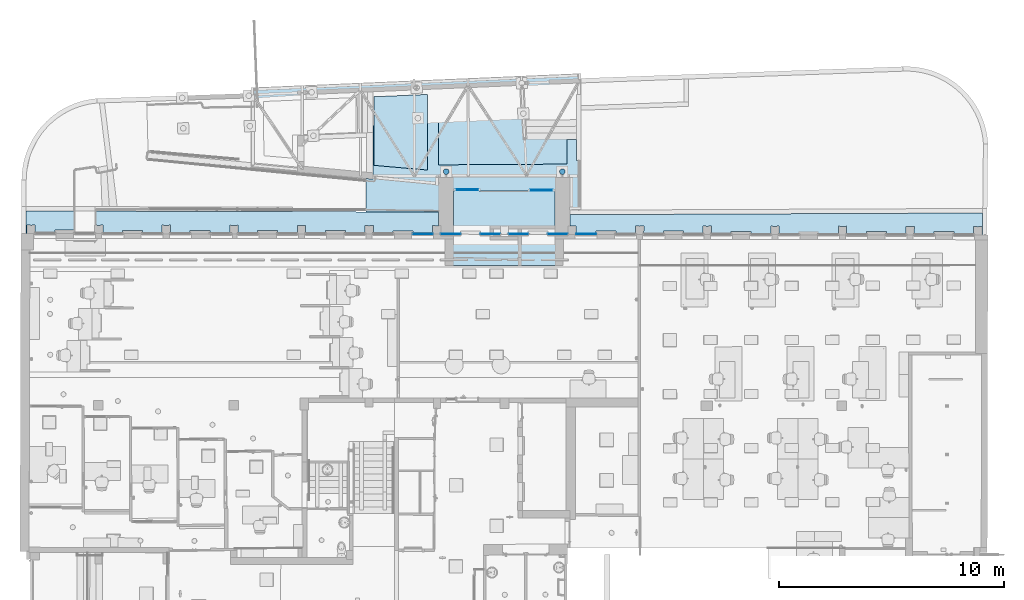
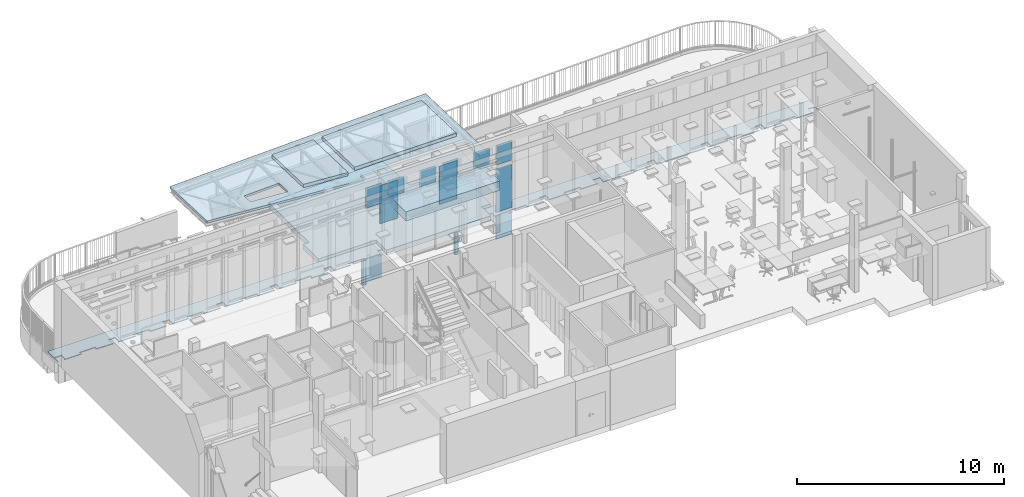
# One storey, part 23 of 128: 13 plates, 8 slabs, 1 opening, 13 elements without a shape of their own.
"""IFC2X3 building model written with IfcOpenShell, lengths in metres."""

from ifc_helpers import new_model, entity, si_unit, converted_unit, derived_unit, direction, frame, frame_2d, origin, origin_2d_with_axis, place, context, subcontext, project, spatial, polyline, rectangle, circle, outline, extrude, clip, halfspace, source, transform, mapped, material, layer, layer_set, layer_usage, type_object, type_shapes, element, aggregate, save


model = new_model("IFC2X3")

# Units and contexts
model_context = context("Model", 3, precision=1e-05, world=origin(), true_north=direction((6.123031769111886e-17, 1.0)))
body_context = subcontext(model_context, "Body", "Model", "MODEL_VIEW")
ifc_project = project(units=[si_unit("LENGTHUNIT", "METRE"), si_unit("AREAUNIT", "SQUARE_METRE"), converted_unit("PLANEANGLEUNIT", "DEGREE", entity("IfcPlaneAngleMeasure", 0.017453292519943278), si_unit("PLANEANGLEUNIT", "RADIAN"), dimensions=[0, 0, 0, 0, 0, 0, 0]), derived_unit("THERMALTRANSMITTANCEUNIT", [(si_unit("MASSUNIT", "GRAM", prefix="KILO"), 1), (si_unit("THERMODYNAMICTEMPERATUREUNIT", "KELVIN"), -1), (si_unit("TIMEUNIT", "SECOND"), -3)])], contexts=[model_context])

# Site, building, storey
site_placement = place(None, origin())
site = spatial("IfcSite", under=ifc_project, at=site_placement, Name="Default", CompositionType="ELEMENT")
building_placement = place(site_placement, origin())
building = spatial("IfcBuilding", under=site, at=building_placement, CompositionType="ELEMENT")
storey_placement = place(building_placement, origin())
storey = spatial("IfcBuildingStorey", under=building, at=storey_placement, Name="00_RDC CAF", CompositionType="ELEMENT", Elevation=2.4982504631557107e-13)

# Curtain wall, plate
curtain_wall_type_1 = type_object("IfcCurtainWallType", Name="Mur-rideau:FRi.Ext.30mm RDC", PredefinedType="NOTDEFINED")
curtain_wall_1_placement = place(storey_placement, origin())
curtain_wall_1 = element("IfcCurtainWall", 1, at=curtain_wall_1_placement, inside=storey, type_object=curtain_wall_type_1, Name="Mur-rideau:FRi.Ext.30mm RDC", ObjectType="Mur-rideau:FRi.Ext.30mm RDC")
ifc_material_1 = material(Name="ARC - M.Ex - Verre")
plate_type_1 = type_object("IfcPlateType", Name="Panneau système:F.Ri.P_Ext_Vitre_30mm", PredefinedType="CURTAIN_PANEL", material=ifc_material_1)
shared_shape_1 = source(origin(), body_context, "Body", "SweptSolid", [
    extrude(rectangle(XDim=0.03, YDim=0.879999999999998, at=frame_2d((0.0, 1.942890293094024e-16), x_axis=(1.0, 0.0))), frame((0.0, 0.0, 0.0), z_axis=(0.0, 0.0, 1.0), x_axis=(0.0, 1.0, 0.0)), (0.0, 0.0, 1.0), 2.578999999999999),
])
type_shapes(plate_type_1, [shared_shape_1])
plate_1_placement = place(curtain_wall_1_placement, frame((31.375993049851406, 144.14482896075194, 0.08999999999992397)))
plate_1 = element("IfcPlate", 2, at=plate_1_placement, type_object=plate_type_1, material=ifc_material_1, Name="Panneau système:F.Ri.P_Ext_Vitre_30mm", ObjectType="Panneau système:F.Ri.P_Ext_Vitre_30mm", context=body_context, shape_type="MappedRepresentation", body=[
    mapped(shared_shape_1, transform((0.0, 0.0, 0.0), scale=1.0)),
])

curtain_wall_2_placement = place(storey_placement, origin())
curtain_wall_2 = element("IfcCurtainWall", 3, at=curtain_wall_2_placement, inside=storey, type_object=curtain_wall_type_1, Name="Mur-rideau:FRi.Ext.30mm RDC", ObjectType="Mur-rideau:FRi.Ext.30mm RDC")
plate_type_2 = type_object("IfcPlateType", Name="Panneau système:F.Ri.P_Ext_Vitre_30mm", PredefinedType="CURTAIN_PANEL", material=ifc_material_1)
shared_shape_2 = source(origin(), body_context, "Body", "SweptSolid", [
    extrude(rectangle(XDim=0.03, YDim=0.879999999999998, at=frame_2d((0.0, 1.942890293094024e-16), x_axis=(1.0, 0.0))), frame((0.0, 0.0, 0.0), z_axis=(0.0, 0.0, 1.0), x_axis=(0.0, 1.0, 0.0)), (0.0, 0.0, 1.0), 1.1689999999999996),
])
type_shapes(plate_type_2, [shared_shape_2])
plate_2_placement = place(curtain_wall_2_placement, frame((24.12238492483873, 144.15623667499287, 2.8689999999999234)))
plate_2 = element("IfcPlate", 4, at=plate_2_placement, type_object=plate_type_2, material=ifc_material_1, Name="Panneau système:F.Ri.P_Ext_Vitre_30mm", ObjectType="Panneau système:F.Ri.P_Ext_Vitre_30mm", context=body_context, shape_type="MappedRepresentation", body=[
    mapped(shared_shape_2, transform((0.0, 0.0, 0.0), scale=1.0)),
])
aggregate(curtain_wall_2, [plate_2])

# Plate
plate_3_placement = place(curtain_wall_1_placement, frame((31.375993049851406, 144.14482896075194, 2.8689999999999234)))
plate_3 = element("IfcPlate", 5, at=plate_3_placement, type_object=plate_type_2, material=ifc_material_1, Name="Panneau système:F.Ri.P_Ext_Vitre_30mm", ObjectType="Panneau système:F.Ri.P_Ext_Vitre_30mm", context=body_context, shape_type="MappedRepresentation", body=[
    mapped(shared_shape_2, transform((0.0, 0.0, 0.0), scale=1.0)),
])

aggregate(curtain_wall_1, [plate_1, plate_3])

# Curtain wall, plate
curtain_wall_type_2 = type_object("IfcCurtainWallType", PredefinedType="NOTDEFINED")
curtain_wall_3_placement = place(storey_placement, origin())
curtain_wall_3 = element("IfcCurtainWall", 6, at=curtain_wall_3_placement, inside=storey, type_object=curtain_wall_type_2)
plate_type_3 = type_object("IfcPlateType", Name="Panneau système:F.Ri.P_Ext_Vitre_40mm", PredefinedType="CURTAIN_PANEL", material=ifc_material_1)
shared_shape_3 = source(origin(), body_context, "Body", "SweptSolid", [
    extrude(rectangle(XDim=0.04, YDim=0.9947786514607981, at=origin_2d_with_axis()), frame((0.0, 0.0, 0.0), z_axis=(0.0, 0.0, 1.0), x_axis=(0.0, 1.0, 0.0)), (0.0, 0.0, 1.0), 2.25),
])
type_shapes(plate_type_3, [shared_shape_3])
plate_4_placement = place(curtain_wall_3_placement, frame((29.393335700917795, 146.08765821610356, 0.09999999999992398)))
plate_4 = element("IfcPlate", 7, at=plate_4_placement, type_object=plate_type_3, material=ifc_material_1, Name="Panneau système:F.Ri.P_Ext_Vitre_40mm", ObjectType="Panneau système:F.Ri.P_Ext_Vitre_40mm", context=body_context, shape_type="MappedRepresentation", body=[
    mapped(shared_shape_3, transform((0.0, 0.0, 0.0), scale=1.0)),
])
aggregate(curtain_wall_3, [plate_4])

curtain_wall_4_placement = place(storey_placement, origin())
curtain_wall_4 = element("IfcCurtainWall", 8, at=curtain_wall_4_placement, inside=storey, type_object=curtain_wall_type_2)
plate_5_placement = place(curtain_wall_4_placement, frame((29.393335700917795, 146.08765821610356, 0.09999999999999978)))
plate_5 = element("IfcPlate", 9, at=plate_5_placement, type_object=plate_type_3, material=ifc_material_1, Name="Panneau système:F.Ri.P_Ext_Vitre_40mm", ObjectType="Panneau système:F.Ri.P_Ext_Vitre_40mm", context=body_context, shape_type="MappedRepresentation", body=[
    mapped(shared_shape_3, transform((0.0, 0.0, 0.0), scale=1.0)),
])
aggregate(curtain_wall_4, [plate_5])

# Roof, slab
ifc_material_2 = material(Name="STR - Beton Mur")
ifc_layer_1 = layer(ifc_material_2, 0.55)
ifc_layer_set_1 = layer_set([ifc_layer_1], Name="Toit de base:Co_Plafond_Entrée_550mm")
roof_placement = place(storey_placement, frame((25.11871096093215, 142.74142831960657, 2.4499999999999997)))
roof = element("IfcRoof", 10, at=roof_placement, inside=storey, material=ifc_layer_set_1, Name="Toit de base:Co_Plafond_Entrée_550mm", ObjectType="Toit de base:Co_Plafond_Entrée_550mm", ShapeType="NOTDEFINED")
type_product = type_object("IfcTypeProduct", Name="Toit de base:Co_Plafond_Entrée_550mm")
slab_1_placement = place(roof_placement, origin())
slab_1 = element("IfcSlab", 11, at=slab_1_placement, type_object=type_product, material=ifc_layer_set_1, Name="Toit de base:Co_Plafond_Entrée_550mm", ObjectType="Toit de base:Co_Plafond_Entrée_550mm", PredefinedType="ROOF", context=body_context, shape_type="SweptSolid", body=[
    extrude(outline(polyline([(-2.245793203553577, 1.6572705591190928), (-2.2486984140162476, 0.12817494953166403), (-2.249435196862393, -0.25961499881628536), (-2.619768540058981, -0.2590325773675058), (-2.6200988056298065, -0.46903231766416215), (-2.6219545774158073, -1.6490269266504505), (-2.251955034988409, -1.649608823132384), (2.2497689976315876, -1.6566886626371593), (2.619768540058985, -1.6572705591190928), (2.6216243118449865, -0.4772759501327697), (2.6219545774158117, -0.26727620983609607), (2.2500594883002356, -0.2666913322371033), (2.2500594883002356, 0.1281749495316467), (2.2500594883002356, 1.6572705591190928), (-2.245793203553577, 1.6572705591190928)])), frame((2.6219545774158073, 1.6572705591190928, 0.0)), (0.0, 0.0, 1.0), 0.55),
])
aggregate(roof, [slab_1])

# Curtain wall, plate
curtain_wall_5_placement = place(storey_placement, origin())
curtain_wall_5 = element("IfcCurtainWall", 12, at=curtain_wall_5_placement, inside=storey, type_object=curtain_wall_type_2)
plate_type_4 = type_object("IfcPlateType", Name="Panneau système:F.Ri.P_Ext_Vitre_40mm", PredefinedType="CURTAIN_PANEL", material=ifc_material_1)
shared_shape_4 = source(origin(), body_context, "Body", "SweptSolid", [
    extrude(rectangle(XDim=0.04, YDim=0.9947786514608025, at=origin_2d_with_axis()), frame((0.0, 0.0, 0.0), z_axis=(0.0, 0.0, 1.0), x_axis=(0.0, 1.0, 0.0)), (0.0, 0.0, 1.0), 2.25),
])
type_shapes(plate_type_4, [shared_shape_4])
plate_6_placement = place(curtain_wall_5_placement, frame((26.098557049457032, 146.10885821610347, 0.09999999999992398), z_axis=(0.0, 0.0, 1.0), x_axis=(-1.0, 0.0, 0.0)))
plate_6 = element("IfcPlate", 13, at=plate_6_placement, type_object=plate_type_4, material=ifc_material_1, Name="Panneau système:F.Ri.P_Ext_Vitre_40mm", ObjectType="Panneau système:F.Ri.P_Ext_Vitre_40mm", context=body_context, shape_type="MappedRepresentation", body=[
    mapped(shared_shape_4, transform((0.0, 0.0, 0.0), scale=1.0)),
])
aggregate(curtain_wall_5, [plate_6])

curtain_wall_6_placement = place(storey_placement, origin())
curtain_wall_6 = element("IfcCurtainWall", 14, at=curtain_wall_6_placement, inside=storey, type_object=curtain_wall_type_2)
plate_7_placement = place(curtain_wall_6_placement, frame((26.098557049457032, 146.10885821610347, 0.09999999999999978), z_axis=(0.0, 0.0, 1.0), x_axis=(-1.0, 0.0, 0.0)))
plate_7 = element("IfcPlate", 15, at=plate_7_placement, type_object=plate_type_4, material=ifc_material_1, Name="Panneau système:F.Ri.P_Ext_Vitre_40mm", ObjectType="Panneau système:F.Ri.P_Ext_Vitre_40mm", context=body_context, shape_type="MappedRepresentation", body=[
    mapped(shared_shape_4, transform((0.0, 0.0, 0.0), scale=1.0)),
])
aggregate(curtain_wall_6, [plate_7])

curtain_wall_7_placement = place(storey_placement, origin())
curtain_wall_7 = element("IfcCurtainWall", 16, at=curtain_wall_7_placement, inside=storey, type_object=curtain_wall_type_1, Name="Mur-rideau:FRi.Ext.30mm RDC", ObjectType="Mur-rideau:FRi.Ext.30mm RDC")
plate_type_5 = type_object("IfcPlateType", Name="Panneau système:F.Ri.P_Ext_Vitre_30mm", PredefinedType="CURTAIN_PANEL", material=ifc_material_1)
shared_shape_5 = source(origin(), body_context, "Body", "SweptSolid", [
    extrude(rectangle(XDim=0.03, YDim=0.8800000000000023, at=frame_2d((0.0, 7.494005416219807e-16), x_axis=(1.0, 0.0))), frame((0.0, 0.0, 0.0), z_axis=(0.0, 0.0, 1.0), x_axis=(0.0, 1.0, 0.0)), (0.0, 0.0, 1.0), 0.9479999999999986),
])
type_shapes(plate_type_5, [shared_shape_5])
plate_8_placement = place(curtain_wall_7_placement, frame((28.375999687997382, 144.14482896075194, 3.0899999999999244)))
plate_8 = element("IfcPlate", 17, at=plate_8_placement, type_object=plate_type_5, material=ifc_material_1, Name="Panneau système:F.Ri.P_Ext_Vitre_30mm", ObjectType="Panneau système:F.Ri.P_Ext_Vitre_30mm", context=body_context, shape_type="MappedRepresentation", body=[
    mapped(shared_shape_5, transform((0.0, 0.0, 0.0), scale=1.0)),
])
aggregate(curtain_wall_7, [plate_8])

curtain_wall_8_placement = place(storey_placement, origin())
curtain_wall_8 = element("IfcCurtainWall", 18, at=curtain_wall_8_placement, inside=storey, type_object=curtain_wall_type_1, Name="Mur-rideau:FRi.Ext.30mm RDC", ObjectType="Mur-rideau:FRi.Ext.30mm RDC")
plate_9_placement = place(curtain_wall_8_placement, frame((30.122371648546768, 144.14208245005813, 3.0899999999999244)))
plate_9 = element("IfcPlate", 19, at=plate_9_placement, type_object=plate_type_5, material=ifc_material_1, Name="Panneau système:F.Ri.P_Ext_Vitre_30mm", ObjectType="Panneau système:F.Ri.P_Ext_Vitre_30mm", context=body_context, shape_type="MappedRepresentation", body=[
    mapped(shared_shape_5, transform((0.0, 0.0, 0.0), scale=1.0)),
])
aggregate(curtain_wall_8, [plate_9])

curtain_wall_9_placement = place(storey_placement, origin())
curtain_wall_9 = element("IfcCurtainWall", 20, at=curtain_wall_9_placement, inside=storey, type_object=curtain_wall_type_1, Name="Mur-rideau:FRi.Ext.30mm RDC", ObjectType="Mur-rideau:FRi.Ext.30mm RDC")
plate_10_placement = place(curtain_wall_9_placement, frame((25.376006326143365, 144.14482896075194, 3.0899999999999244)))
plate_10 = element("IfcPlate", 21, at=plate_10_placement, type_object=plate_type_5, material=ifc_material_1, Name="Panneau système:F.Ri.P_Ext_Vitre_30mm", ObjectType="Panneau système:F.Ri.P_Ext_Vitre_30mm", context=body_context, shape_type="MappedRepresentation", body=[
    mapped(shared_shape_5, transform((0.0, 0.0, 0.0), scale=1.0)),
])
aggregate(curtain_wall_9, [plate_10])

curtain_wall_10_placement = place(storey_placement, origin())
curtain_wall_10 = element("IfcCurtainWall", 22, at=curtain_wall_10_placement, inside=storey, type_object=curtain_wall_type_1, Name="Mur-rideau:FRi.Ext.30mm RDC", ObjectType="Mur-rideau:FRi.Ext.30mm RDC")
plate_11_placement = place(curtain_wall_10_placement, frame((27.12237828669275, 144.14208245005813, 3.0899999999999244)))
plate_11 = element("IfcPlate", 23, at=plate_11_placement, type_object=plate_type_5, material=ifc_material_1, Name="Panneau système:F.Ri.P_Ext_Vitre_30mm", ObjectType="Panneau système:F.Ri.P_Ext_Vitre_30mm", context=body_context, shape_type="MappedRepresentation", body=[
    mapped(shared_shape_5, transform((0.0, 0.0, 0.0), scale=1.0)),
])
aggregate(curtain_wall_10, [plate_11])

curtain_wall_type_3 = type_object("IfcCurtainWallType", Name="Mur-rideau:FRi.Ext.30mm Etages", PredefinedType="NOTDEFINED")
curtain_wall_11_placement = place(storey_placement, origin())
curtain_wall_11 = element("IfcCurtainWall", 24, at=curtain_wall_11_placement, inside=storey, type_object=curtain_wall_type_3, Name="Mur-rideau:FRi.Ext.30mm Etages", ObjectType="Mur-rideau:FRi.Ext.30mm Etages")
ifc_material_3 = material(Name="ARC - M.Ex - Bleu Foncé")
plate_type_6 = type_object("IfcPlateType", Name="Panneau système:F.Ri.P_Ext_Plein_30mm_Bleu foncé", PredefinedType="CURTAIN_PANEL", material=ifc_material_3)
shared_shape_6 = source(origin(), body_context, "Body", "SweptSolid", [
    extrude(rectangle(XDim=0.03, YDim=0.8800000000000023, at=frame_2d((0.0, 7.494005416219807e-16), x_axis=(1.0, 0.0))), frame((0.0, 0.0, 0.0), z_axis=(0.0, 0.0, 1.0), x_axis=(0.0, 1.0, 0.0)), (0.0, 0.0, 1.0), 1.3879999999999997),
])
type_shapes(plate_type_6, [shared_shape_6])
plate_12_placement = place(curtain_wall_11_placement, frame((31.37599304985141, 144.14482896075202, -1.500000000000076)))
plate_12 = element("IfcPlate", 25, at=plate_12_placement, type_object=plate_type_6, material=ifc_material_3, Name="Panneau système:F.Ri.P_Ext_Plein_30mm_Bleu foncé", ObjectType="Panneau système:F.Ri.P_Ext_Plein_30mm_Bleu foncé", context=body_context, shape_type="MappedRepresentation", body=[
    mapped(shared_shape_6, transform((0.0, 0.0, 0.0), scale=1.0)),
])
aggregate(curtain_wall_11, [plate_12])

curtain_wall_12_placement = place(storey_placement, origin())
curtain_wall_12 = element("IfcCurtainWall", 26, at=curtain_wall_12_placement, inside=storey, type_object=curtain_wall_type_3, Name="Mur-rideau:FRi.Ext.30mm Etages", ObjectType="Mur-rideau:FRi.Ext.30mm Etages")
plate_type_7 = type_object("IfcPlateType", Name="Panneau système:F.Ri.P_Ext_Plein_30mm_Bleu foncé", PredefinedType="CURTAIN_PANEL", material=ifc_material_3)
shared_shape_7 = source(origin(), body_context, "Body", "SweptSolid", [
    extrude(rectangle(XDim=0.03, YDim=0.8800000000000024, at=frame_2d((0.0, 6.661338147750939e-16), x_axis=(1.0, 0.0))), frame((0.0, 0.0, 0.0), z_axis=(0.0, 0.0, 1.0), x_axis=(0.0, 1.0, 0.0)), (0.0, 0.0, 1.0), 1.3879999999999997),
])
type_shapes(plate_type_7, [shared_shape_7])
plate_13_placement = place(curtain_wall_12_placement, frame((24.122359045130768, 144.1562367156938, -1.500000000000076), z_axis=(0.0, 0.0, 1.0), x_axis=(-1.0, 0.0, 0.0)))
plate_13 = element("IfcPlate", 27, at=plate_13_placement, type_object=plate_type_7, material=ifc_material_3, Name="Panneau système:F.Ri.P_Ext_Plein_30mm_Bleu foncé", ObjectType="Panneau système:F.Ri.P_Ext_Plein_30mm_Bleu foncé", context=body_context, shape_type="MappedRepresentation", body=[
    mapped(shared_shape_7, transform((0.0, 0.0, 0.0), scale=1.0)),
])
aggregate(curtain_wall_12, [plate_13])

# Slabs
ifc_material_4 = material(Name="STR - Caillebotis")
ifc_layer_2 = layer(ifc_material_4, 0.05)
ifc_layer_set_2 = layer_set([ifc_layer_2], Name="Sol:S_Caillebotis_50 mm")
ifc_layer_usage_1 = layer_usage(ifc_layer_set_2, "AXIS3", "POSITIVE", 0.0)
slab_type_1 = type_object("IfcSlabType", Name="Sol:S_Caillebotis_50 mm", PredefinedType="FLOOR", material=ifc_layer_set_2)
slab_2_placement = place(storey_placement, origin())
element("IfcSlab", 28, at=slab_2_placement, inside=storey, type_object=slab_type_1, material=ifc_layer_usage_1, Name="Sol:S_Caillebotis_50 mm", ObjectType="Sol:S_Caillebotis_50 mm", PredefinedType="FLOOR", context=body_context, shape_type="SweptSolid", body=[
    extrude(outline(polyline([(-9.158785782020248, -0.8032743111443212), (9.16073170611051, -0.8032743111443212), (9.162861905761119, -0.30454364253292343), (9.063790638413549, -0.29310021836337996), (8.881176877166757, -0.3120333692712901), (8.88325145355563, 0.0429605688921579), (8.929050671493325, 0.04269291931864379), (8.929225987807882, 0.07269240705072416), (7.949268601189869, 0.07841925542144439), (7.949093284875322, 0.04841976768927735), (8.010892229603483, 0.04805861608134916), (8.01019096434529, -0.07193933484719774), (7.120206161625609, -0.06673828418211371), (7.120907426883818, 0.05325966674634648), (7.18270637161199, 0.05289851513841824), (7.182881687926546, 0.08289800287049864), (6.202675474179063, 0.08862630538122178), (6.202500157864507, 0.05862681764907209), (6.2482993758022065, 0.05835916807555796), (6.24622479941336, -0.29663477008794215), (6.063844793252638, -0.27556860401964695), (5.881231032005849, -0.2945017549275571), (5.883305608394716, 0.06049218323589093), (5.929104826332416, 0.060224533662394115), (5.929280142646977, 0.0902240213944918), (4.94932275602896, 0.0959508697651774), (4.9491474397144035, 0.06595138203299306), (5.010946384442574, 0.06559023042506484), (5.010245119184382, -0.054407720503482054), (4.120260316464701, -0.0492066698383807), (4.120961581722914, 0.0707912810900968), (4.18276052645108, 0.07043012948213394), (4.182935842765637, 0.10042961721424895), (3.202729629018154, 0.10615791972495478), (3.202554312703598, 0.07615843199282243), (3.248353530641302, 0.07589078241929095), (3.2462789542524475, -0.27910315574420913), (3.063898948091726, -0.2580369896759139), (2.8812851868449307, -0.2769701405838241), (2.883359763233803, 0.07802379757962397), (2.929158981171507, 0.07775614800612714), (2.929334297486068, 0.10775563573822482), (1.9493769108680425, 0.11348248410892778), (1.9492015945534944, 0.08348299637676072), (2.011000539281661, 0.08312184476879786), (2.010299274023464, -0.036876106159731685), (1.1203144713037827, -0.03167505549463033), (1.121015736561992, 0.08832289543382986), (1.1828146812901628, 0.08796174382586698), (1.1829899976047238, 0.117961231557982), (0.2027837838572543, 0.12368953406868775), (0.2026084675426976, 0.09369004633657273), (0.24840768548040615, 0.09342239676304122), (0.2463331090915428, -0.2615715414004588), (0.06395310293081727, -0.2405053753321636), (-0.11866065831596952, -0.2594385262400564), (-0.11658608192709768, 0.09555541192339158), (-0.07078686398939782, 0.09528776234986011), (-0.07061154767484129, 0.1252872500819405), (-2.797162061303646, 0.14122114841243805), (-2.7973373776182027, 0.11122166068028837), (-2.7515381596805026, 0.11095401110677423), (-2.7536127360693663, -0.24403992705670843), (-2.9359927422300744, -0.22297376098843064), (-3.1186065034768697, -0.24190691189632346), (-3.116531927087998, 0.11308702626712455), (-3.070732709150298, 0.1128193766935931), (-3.0705573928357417, 0.1428188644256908), (-4.050514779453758, 0.14854571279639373), (-4.0506900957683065, 0.11854622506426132), (-3.9888911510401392, 0.11818507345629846), (-3.9895924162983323, -0.0018128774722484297), (-4.879577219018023, 0.003388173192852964), (-4.878875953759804, 0.12338612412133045), (-4.817077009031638, 0.1230249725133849), (-4.816901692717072, 0.1530244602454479), (-5.797107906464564, 0.1587527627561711), (-5.797283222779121, 0.12875327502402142), (-5.75148400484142, 0.1284856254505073), (-5.753558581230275, -0.2265083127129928), (-5.935938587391, -0.20544214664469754), (-6.118552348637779, -0.22437529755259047), (-6.116477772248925, 0.13061864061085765), (-6.070678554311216, 0.13035099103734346), (-6.070503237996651, 0.16035047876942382), (-7.050460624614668, 0.16607732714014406), (-7.050635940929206, 0.13607783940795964), (-6.988836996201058, 0.1357166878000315), (-6.989538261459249, 0.015718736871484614), (-7.8795230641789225, 0.02091978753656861), (-7.878821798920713, 0.1409177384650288), (-7.8170228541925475, 0.1405565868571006), (-7.816847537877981, 0.17055607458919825), (-8.797053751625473, 0.17628437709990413), (-8.79722906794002, 0.14628488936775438), (-8.75142985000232, 0.14601723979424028), (-8.753504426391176, -0.2089766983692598), (-8.935884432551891, -0.18791053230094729), (-9.118498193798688, -0.20684368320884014), (-9.116248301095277, 0.1781497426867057), (-9.154592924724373, 0.17837382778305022), (-9.158785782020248, -0.8032743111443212)])), frame((39.81480412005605, 144.24142988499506, -0.2200000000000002), z_axis=(0.0, 0.0, 1.0), x_axis=(-0.9999908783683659, -0.004271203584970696, 0.0)), (0.0, 0.0, 1.0), 0.05),
    extrude(outline(polyline([(-9.056201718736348, -0.12075808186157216), (-9.011311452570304, -0.12075808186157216), (-9.011311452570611, 0.2642419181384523), (-8.8288114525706, 0.24424191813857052), (-8.646311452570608, 0.2642419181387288), (-8.646311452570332, -0.09075808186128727), (-8.692111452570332, -0.09075808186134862), (-8.692111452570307, -0.12075808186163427), (-7.712137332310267, -0.12075808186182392), (-7.712137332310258, -0.09075808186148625), (-7.773937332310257, -0.090758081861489), (-7.773937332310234, 0.02924191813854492), (-6.883937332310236, 0.029241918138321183), (-6.88393733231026, -0.09075808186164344), (-6.945737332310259, -0.0907580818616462), (-6.9457373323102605, -0.12075808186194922), (-5.965514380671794, -0.12075808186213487), (-5.965514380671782, -0.09075808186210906), (-6.0113143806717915, -0.09075808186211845), (-6.011314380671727, 0.2642419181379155), (-5.828814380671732, 0.24424191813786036), (-5.646314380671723, 0.26424191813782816), (-5.646314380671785, -0.09075808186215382), (-5.692114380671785, -0.09075808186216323), (-5.6921143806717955, -0.1207580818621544), (-4.712180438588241, -0.12075808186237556), (-4.7121804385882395, -0.09075808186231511), (-4.773980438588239, -0.09075808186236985), (-4.773980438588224, 0.029241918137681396), (-3.8839804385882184, 0.029241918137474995), (-3.8839804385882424, -0.09075808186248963), (-3.945780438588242, -0.09075808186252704), (-3.9457804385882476, -0.12075808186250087), (-2.9655173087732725, -0.12075808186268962), (-2.9655173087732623, -0.09075808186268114), (-3.011317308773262, -0.09075808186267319), (-3.011317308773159, 0.2642419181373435), (-2.8288173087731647, 0.24424191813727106), (-2.646317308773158, 0.2642419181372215), (-2.6463173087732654, -0.0907580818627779), (-2.692117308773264, -0.09075808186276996), (-2.6921173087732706, -0.12075808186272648), (-1.7121431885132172, -0.12075808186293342), (-1.7121431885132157, -0.09075808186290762), (-1.7739431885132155, -0.0907580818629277), (-1.7739431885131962, 0.02924191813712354), (-0.8839431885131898, 0.029241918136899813), (-0.8839431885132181, -0.09075808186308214), (-0.9457431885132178, -0.09075808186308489), (-0.9457431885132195, -0.1207580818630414), (0.034479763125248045, -0.12075808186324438), (0.0344797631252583, -0.09075808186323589), (-0.011320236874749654, -0.09075808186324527), (-0.011320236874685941, 0.26424191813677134), (0.17117976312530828, 0.24424191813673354), (0.3536797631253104, 0.2642419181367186), (0.35367976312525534, -0.09075808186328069), (0.307879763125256, -0.09075808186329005), (0.3078797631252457, -0.12075808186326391), (1.2878538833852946, -0.12075808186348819), (1.2878538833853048, -0.09075808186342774), (1.2260538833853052, -0.09075808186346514), (1.22605388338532, 0.029241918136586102), (2.1160538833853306, 0.029241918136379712), (2.1160538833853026, -0.09075808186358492), (2.054253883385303, -0.09075808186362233), (2.0542538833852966, -0.12075808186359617), (3.034476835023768, -0.12075808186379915), (3.03447683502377, -0.090758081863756), (2.9886768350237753, -0.09075808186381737), (2.988676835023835, 0.2642419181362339), (3.1711768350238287, 0.24424191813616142), (3.3536768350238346, 0.26424191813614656), (3.3536768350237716, -0.0907580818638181), (3.3078768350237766, -0.09075808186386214), (3.3078768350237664, -0.12075808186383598), (4.28785095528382, -0.12075808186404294), (4.287850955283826, -0.0907580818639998), (4.22605095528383, -0.09075808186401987), (4.226050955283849, 0.029241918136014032), (5.116050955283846, 0.029241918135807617), (5.116050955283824, -0.09075808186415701), (5.054250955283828, -0.09075808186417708), (5.054250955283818, -0.12075808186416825), (6.0344739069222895, -0.1207580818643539), (6.034473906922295, -0.09075808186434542), (5.988673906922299, -0.09075808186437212), (5.988673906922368, 0.26424191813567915), (6.171173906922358, 0.24424191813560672), (6.3536739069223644, 0.2642419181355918), (6.3536739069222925, -0.09075808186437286), (6.307873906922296, -0.09075808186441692), (6.307873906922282, -0.12075808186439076), (7.287848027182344, -0.12075808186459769), (7.287848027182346, -0.09075808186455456), (7.226048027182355, -0.09075808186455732), (7.22604802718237, 0.029241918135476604), (8.116048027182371, 0.02924191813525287), (8.116048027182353, -0.09075808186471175), (8.054248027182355, -0.09075808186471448), (8.054248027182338, -0.12075808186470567), (9.034470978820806, -0.12075808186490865), (9.034470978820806, -0.0907580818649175), (8.988670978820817, -0.09075808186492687), (8.98867097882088, 0.26424191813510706), (9.171170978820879, 0.24424191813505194), (9.256171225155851, 0.25355701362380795), (9.255206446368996, 0.867012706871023), (-9.057775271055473, 0.8797869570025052), (-9.056201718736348, -0.12075808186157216)])), frame((15.578313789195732, 144.27543210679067, -0.22000000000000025), z_axis=(0.0, 0.0, 1.0), x_axis=(0.9999987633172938, -0.0015726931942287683, 0.0)), (0.0, 0.0, 1.0), 0.05),
])
ifc_material_5 = material(Name="STR - Beton")
ifc_layer_3 = layer(ifc_material_5, 0.14999999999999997)
ifc_material_6 = material(Name="Terre")
ifc_layer_4 = layer(ifc_material_6, 0.14999999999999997)
ifc_layer_set_3 = layer_set([ifc_layer_3, ifc_layer_4], Name="Sol:Vo_Dalle_Beton_150mm")
ifc_layer_usage_2 = layer_usage(ifc_layer_set_3, "AXIS3", "POSITIVE", 0.0)
slab_type_2 = type_object("IfcSlabType", Name="Sol:Vo_Dalle_Beton_150mm", PredefinedType="FLOOR", material=ifc_layer_set_3)
slab_3_placement = place(storey_placement, origin())
element("IfcSlab", 29, at=slab_3_placement, inside=storey, type_object=slab_type_2, material=ifc_layer_usage_2, Name="Sol:Vo_Dalle_Beton_150mm", ObjectType="Sol:Vo_Dalle_Beton_150mm", PredefinedType="FLOOR", context=body_context, shape_type="SweptSolid", body=[
    extrude(outline(polyline([(-1.6111850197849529, -5.477826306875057), (-0.13572019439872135, -5.477826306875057), (-0.1655740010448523, -5.162120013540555), (3.712901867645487, -5.17520985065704), (3.9939869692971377, 1.3400564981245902), (1.5859171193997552, 1.4662090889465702), (1.603263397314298, 3.861914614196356), (0.6679409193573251, 3.8632329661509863), (0.6682228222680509, 4.063232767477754), (-1.738692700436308, 4.066625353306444), (-1.7408316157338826, 3.5658541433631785), (-2.615431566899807, 3.565854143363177), (-2.6062850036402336, -2.2499985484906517), (-1.6185129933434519, -2.2499985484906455), (-1.6111850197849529, -5.477826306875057)])), frame((27.084870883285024, 146.74640113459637, 0.0), z_axis=(0.0, 0.0, -1.0), x_axis=(0.0, 1.0, 0.0)), (0.0, 0.0, 1.0), 0.29999999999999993),
])
ifc_material_7 = material(Name="SITE - Herbe")
ifc_layer_5 = layer(ifc_material_7, 0.2)
ifc_layer_set_4 = layer_set([ifc_layer_5], Name="Sol:S_Sol_vegetalise_200 mm")
ifc_layer_usage_3 = layer_usage(ifc_layer_set_4, "AXIS3", "POSITIVE", 0.0)
slab_type_3 = type_object("IfcSlabType", Name="Sol:S_Sol_vegetalise_200 mm", PredefinedType="FLOOR", material=ifc_layer_set_4)
slab_4_placement = place(storey_placement, origin())
element("IfcSlab", 30, at=slab_4_placement, inside=storey, type_object=slab_type_3, material=ifc_layer_usage_3, Name="Sol:S_Sol_vegetalise_200 mm", ObjectType="Sol:S_Sol_vegetalise_200 mm", PredefinedType="FLOOR", context=body_context, shape_type="SweptSolid", body=[
    clip(clip(extrude(outline(polyline([(-1.643472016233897, -2.8466748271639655), (1.5038257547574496, -2.8466748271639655), (1.7494193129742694, 2.8466748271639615), (-1.6097730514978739, 2.84667482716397), (-1.643472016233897, -2.8466748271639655)])), frame((27.68154716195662, 148.85869719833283, 2.9821215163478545), z_axis=(0.0, -0.030985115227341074, -0.9995198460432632), x_axis=(0.0, 0.9995198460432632, -0.030985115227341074)), (0.030985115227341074, 0.0, 0.9995198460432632), 0.20019220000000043), halfspace(frame((26.585642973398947, 150.4372874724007, 2.733089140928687), z_axis=(0.0, -0.03098511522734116, -0.9995198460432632), x_axis=(0.0, -0.9995198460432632, 0.03098511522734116)), False)), halfspace(frame((26.585642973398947, 150.4372874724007, 2.9331852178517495), z_axis=(0.0, 0.03098511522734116, 0.9995198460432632), x_axis=(0.0, 0.9995198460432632, -0.03098511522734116)), False)),
])
ifc_layer_usage_4 = layer_usage(ifc_layer_set_4, "AXIS3", "POSITIVE", 0.0)
slab_5_placement = place(storey_placement, origin())
element("IfcSlab", 31, at=slab_5_placement, inside=storey, type_object=slab_type_3, material=ifc_layer_usage_4, Name="Sol:S_Sol_vegetalise_200 mm", ObjectType="Sol:S_Sol_vegetalise_200 mm", PredefinedType="FLOOR", context=body_context, shape_type="SweptSolid", body=[
    clip(clip(extrude(outline(polyline([(-1.4965572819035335, -1.1848888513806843), (1.5495639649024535, -1.1848888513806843), (1.651851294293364, 1.1848888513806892), (-1.7048579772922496, 1.1848888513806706), (-1.4965572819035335, -1.1848888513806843)])), frame((23.1506681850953, 148.68934570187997, 2.987371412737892), z_axis=(0.0, -0.03098511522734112, -0.9995198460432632), x_axis=(0.0, 0.9995198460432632, -0.03098511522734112)), (0.03098511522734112, 0.0, 0.9995198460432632), 0.20019220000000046), halfspace(frame((23.286568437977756, 150.2951478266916, 2.7374954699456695), z_axis=(0.0, -0.03098511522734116, -0.9995198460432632), x_axis=(0.0, -0.9995198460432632, 0.03098511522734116)), False)), halfspace(frame((23.286568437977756, 150.2951478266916, 2.9375915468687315), z_axis=(0.0, 0.03098511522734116, 0.9995198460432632), x_axis=(0.0, 0.9995198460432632, -0.03098511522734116)), False)),
])
slab_type_4 = type_object("IfcSlabType", Name="Pieu-Conduite en acier:Diamètre de 250 mm", PredefinedType="BASESLAB")
slab_6_placement = place(storey_placement, origin())
element("IfcSlab", 32, at=slab_6_placement, inside=storey, type_object=slab_type_4, Name="Pieu-Conduite en acier:Diamètre de 250 mm", ObjectType="Pieu-Conduite en acier:Diamètre de 250 mm", PredefinedType="BASESLAB", context=body_context, shape_type="SweptSolid", body=[
    extrude(circle(Radius=0.125, at=origin_2d_with_axis()), frame((30.3207250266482, 146.91596943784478, -3.7999999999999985)), (0.0, 0.0, 1.0), 2.999999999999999),
])
slab_7_placement = place(storey_placement, origin())
element("IfcSlab", 33, at=slab_7_placement, inside=storey, type_object=slab_type_4, Name="Pieu-Conduite en acier:Diamètre de 250 mm", ObjectType="Pieu-Conduite en acier:Diamètre de 250 mm", PredefinedType="BASESLAB", context=body_context, shape_type="SweptSolid", body=[
    extrude(circle(Radius=0.125, at=origin_2d_with_axis()), frame((25.168020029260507, 146.91596943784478, -3.7999999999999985)), (0.0, 0.0, 1.0), 2.999999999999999),
])

# Slab, opening
ifc_material_8 = material(Name="Asphalte, bitume")
ifc_layer_6 = layer(ifc_material_8, 0.015999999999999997)
ifc_material_9 = material(Name="Isolant imperméable")
ifc_layer_7 = layer(ifc_material_9, 0.039)
ifc_material_10 = material(Name="Platelage métallique")
ifc_layer_8 = layer(ifc_material_10, 0.07499999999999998)
ifc_layer_set_5 = layer_set([ifc_layer_6, ifc_layer_7, ifc_layer_8], Name="Sol:Toiture métallique 74 mm + Isolant PU 40 mm + Etanchéité 16mm")
ifc_layer_usage_5 = layer_usage(ifc_layer_set_5, "AXIS3", "POSITIVE", 0.0)
slab_type_5 = type_object("IfcSlabType", Name="Sol:Toiture métallique 74 mm + Isolant PU 40 mm + Etanchéité 16mm", PredefinedType="FLOOR", material=ifc_layer_set_5)
slab_8_placement = place(storey_placement, frame((16.503215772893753, 145.2055881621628, 2.5771537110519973)))
slab_8 = element("IfcSlab", 34, at=slab_8_placement, inside=storey, type_object=slab_type_5, material=ifc_layer_usage_5, Name="Sol:Toiture métallique 74 mm + Isolant PU 40 mm + Etanchéité 16mm", ObjectType="Sol:Toiture métallique 74 mm + Isolant PU 40 mm + Etanchéité 16mm", PredefinedType="FLOOR", context=body_context, shape_type="SweptSolid", body=[
    extrude(outline(polyline([(4.026302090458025, 0.17377334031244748), (-10.613148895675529, -0.45805860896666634), (-10.59666508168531, -4.008384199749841), (-2.2814923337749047, -4.795060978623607), (-2.281492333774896, -4.434369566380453), (3.5343603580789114, -4.434369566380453), (3.5343603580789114, -5.89545238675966), (4.034849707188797, -5.893361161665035), (4.026302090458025, 0.17377334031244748)])), frame((10.613148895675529, 5.892621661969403, 0.135446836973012), z_axis=(0.0, 0.03098511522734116, 0.9995198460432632), x_axis=(1.0, 0.0, 0.0)), (0.0, 0.03098511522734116, -0.9995198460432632), 0.13006244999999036),
])
opening_placement = place(slab_8_placement, origin())
element("IfcOpeningElement", 35, at=opening_placement, cuts=slab_8, Name="Sol:Toiture métallique 74 mm + Isolant PU 40 mm + Etanchéité 16mm", ObjectType="Opening", context=body_context, shape_type="SweptSolid", body=[
    extrude(outline(polyline([(-1.0333982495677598, -0.36117428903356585), (0.9714522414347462, -0.36117428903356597), (1.0231822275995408, 0.2365915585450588), (-0.9612362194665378, 0.48575701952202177), (-1.0333982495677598, -0.36117428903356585)])), frame((3.6620779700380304, 2.543913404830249, 0.0), z_axis=(0.0, 0.0, -1.0), x_axis=(-0.996666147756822, 0.08158792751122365, 0.0)), (0.0, 0.0, -1.0), 0.3181181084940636),
])

save(model, "model.ifc")
